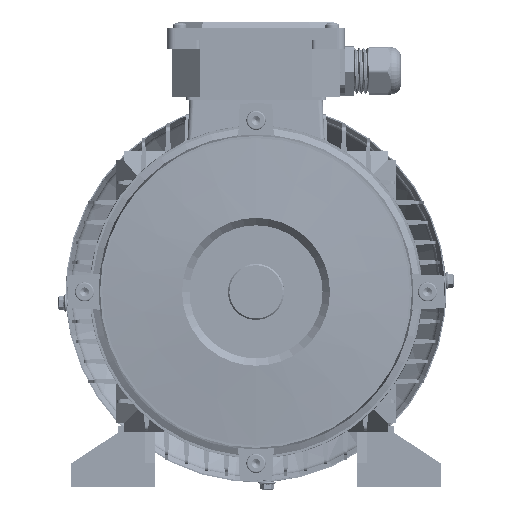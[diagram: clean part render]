
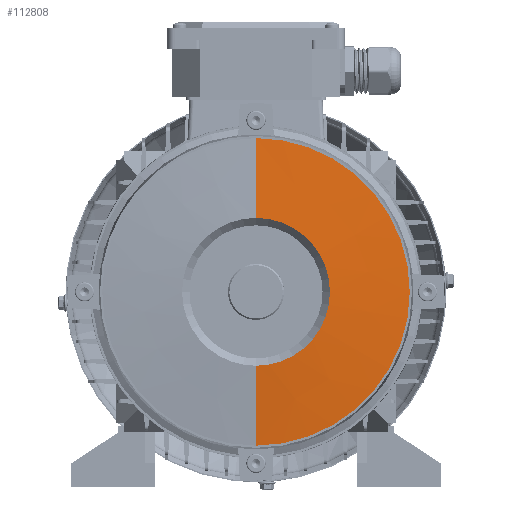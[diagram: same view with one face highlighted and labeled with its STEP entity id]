
A CAD part, front view. The second image highlights one B-rep face of the part: STEP entity #112808.
In plain terms, the highlighted conical face has half-angle 85.764 degrees and reference radius 50 mm.
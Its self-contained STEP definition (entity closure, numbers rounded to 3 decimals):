
#2791 = DIRECTION ( 'NONE',  ( 0., 0., -1. ) ) ;
#23894 = DIRECTION ( 'NONE',  ( 0., -1., 0. ) ) ;
#31019 = DIRECTION ( 'NONE',  ( 0., 1., 0. ) ) ;
#37120 = VERTEX_POINT ( 'NONE', #77526 ) ;
#39339 = DIRECTION ( 'NONE',  ( 0., 0.074, -0.997 ) ) ;
#39413 = VERTEX_POINT ( 'NONE', #71205 ) ;
#41193 = CARTESIAN_POINT ( 'NONE',  ( 0., 0., 0. ) ) ;
#48371 = CIRCLE ( 'NONE', #54889, 50. ) ;
#48499 = VECTOR ( 'NONE', #39339, 1000. ) ;
#53426 = AXIS2_PLACEMENT_3D ( 'NONE', #123597, #63116, #2791 ) ;
#54889 = AXIS2_PLACEMENT_3D ( 'NONE', #84215, #23894, #94362 ) ;
#54992 = CARTESIAN_POINT ( 'NONE',  ( 0., 0., -50. ) ) ;
#55026 = VERTEX_POINT ( 'NONE', #120041 ) ;
#55249 = ORIENTED_EDGE ( 'NONE', *, *, #121567, .F. ) ;
#61737 = LINE ( 'NONE', #86186, #85332 ) ;
#63116 = DIRECTION ( 'NONE',  ( 0., -1., 0. ) ) ;
#64188 = FACE_OUTER_BOUND ( 'NONE', #118860, .T. ) ;
#65118 = EDGE_CURVE ( 'NONE', #39413, #55026, #96715, .T. ) ;
#71205 = CARTESIAN_POINT ( 'NONE',  ( 0., 4., -104. ) ) ;
#77526 = CARTESIAN_POINT ( 'NONE',  ( 0., 0., 50. ) ) ;
#77947 = ORIENTED_EDGE ( 'NONE', *, *, #65118, .T. ) ;
#81657 = AXIS2_PLACEMENT_3D ( 'NONE', #41193, #31019, #111702 ) ;
#84215 = CARTESIAN_POINT ( 'NONE',  ( 0., 0., 0. ) ) ;
#85332 = VECTOR ( 'NONE', #96369, 1000. ) ;
#86186 = CARTESIAN_POINT ( 'NONE',  ( 0., 0., 50. ) ) ;
#87072 = EDGE_CURVE ( 'NONE', #108947, #37120, #48371, .T. ) ;
#87831 = CONICAL_SURFACE ( 'NONE', #81657, 50., 1.497 ) ;
#91678 = ORIENTED_EDGE ( 'NONE', *, *, #87072, .F. ) ;
#94362 = DIRECTION ( 'NONE',  ( 0., 0., -1. ) ) ;
#96369 = DIRECTION ( 'NONE',  ( 0., 0.074, 0.997 ) ) ;
#96715 = CIRCLE ( 'NONE', #53426, 104. ) ;
#102090 = LINE ( 'NONE', #109820, #48499 ) ;
#108947 = VERTEX_POINT ( 'NONE', #54992 ) ;
#109820 = CARTESIAN_POINT ( 'NONE',  ( 0., 0., -50. ) ) ;
#111702 = DIRECTION ( 'NONE',  ( 0., 0., 1. ) ) ;
#112808 = ADVANCED_FACE ( 'NONE', ( #64188 ), #87831, .T. ) ;
#118860 = EDGE_LOOP ( 'NONE', ( #91678, #120630, #77947, #55249 ) ) ;
#120041 = CARTESIAN_POINT ( 'NONE',  ( 0., 4., 104. ) ) ;
#120630 = ORIENTED_EDGE ( 'NONE', *, *, #123271, .T. ) ;
#121567 = EDGE_CURVE ( 'NONE', #37120, #55026, #61737, .T. ) ;
#123271 = EDGE_CURVE ( 'NONE', #108947, #39413, #102090, .T. ) ;
#123597 = CARTESIAN_POINT ( 'NONE',  ( 0., 4., 0. ) ) ;
